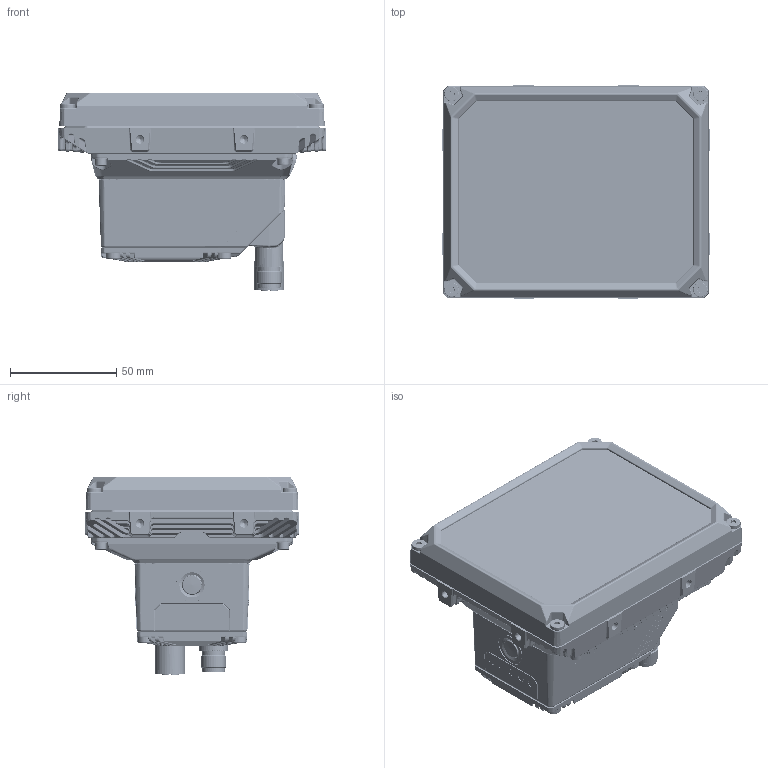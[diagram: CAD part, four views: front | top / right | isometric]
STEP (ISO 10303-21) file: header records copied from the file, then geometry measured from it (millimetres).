
FILE_DESCRIPTION(/* description */ (''),/* implementation_level */ '2;1');
FILE_NAME(/* name */ 'AP036500_00-P2X S-Mount 36 led portrait 90.stp',/* time_stamp */ '2022-05-23T09:56:51+02:00',/* author */ (''),/* organization */ (''),/* preprocessor_version */ 'ST-DEVELOPER v16.7',/* originating_system */ 'SIEMENS PLM Software NX 1946',/* authorisation */ '');
FILE_SCHEMA (('AUTOMOTIVE_DESIGN { 1 0 10303 214 3 1 1 1 }'));
Products named in the file (1): FGut78A0455Dbq1l
Bounding box: 126 x 101 x 93.24 mm (x, y, z)
Volume: 550935 mm3; surface area: 82383.4 mm2
Topology: 1 solids, 25 shells, 5854 faces, 13801 edges, 8003 vertices
Faces by surface type: cylinder 1833, plane 1685, bspline 1671, cone 212, torus 199, sphere 158, extrusion 96
Full cylindrical faces by diameter (mm): 0.6 x7, 3 x4, 3.2 x9, 3.3 x17, 3.5 x5, 3.6 x4, 5.5 x4, 6.2 x4, 6.9 x4, 7 x7, 9.5 x2, 10.5 x1, 10.7 x1, 10.8 x1, 11.15 x1, 11.85 x1, 12.2 x1, 13.5 x2, 14 x1, 15 x1, 16 x1
Entity records: 224815 total; most frequent: CARTESIAN_POINT 77468, ORIENTED_EDGE 26646, DIRECTION 24488, EDGE_CURVE 13323, AXIS2_PLACEMENT_3D 9671, VERTEX_POINT 7931, EDGE_LOOP 6272, ADVANCED_FACE 5853
